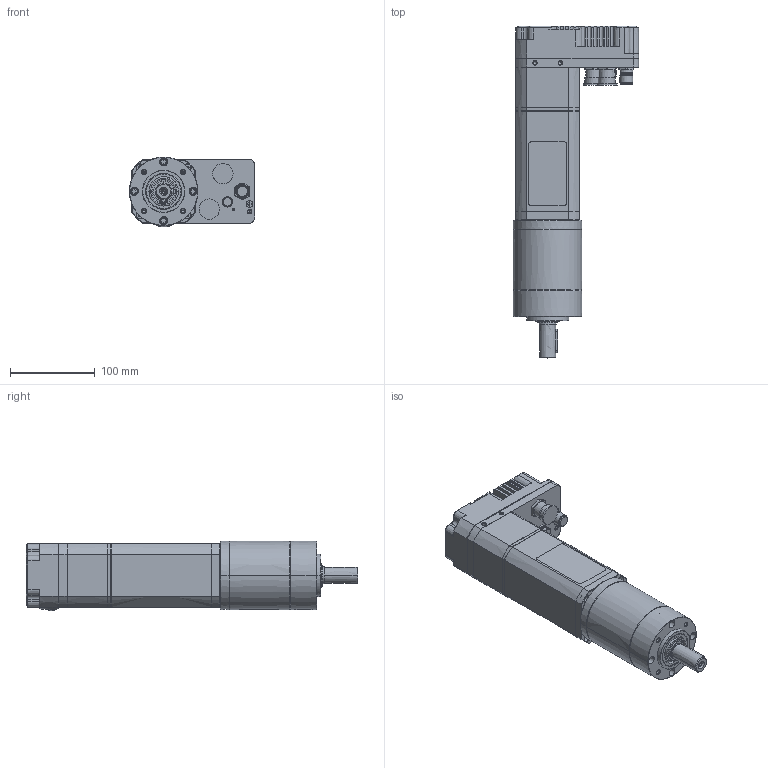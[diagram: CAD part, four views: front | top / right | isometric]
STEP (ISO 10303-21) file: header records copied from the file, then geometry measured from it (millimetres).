
FILE_DESCRIPTION((''),'2;1');
FILE_NAME('8037E1_3STAGES','2018-09-17T',('alecma1'),('CROUZET-AUTOMATISMES'),'CREO PARAMETRIC BY PTC INC, 2017170','CREO PARAMETRIC BY PTC INC, 2017170','');
FILE_SCHEMA(('AP203_CONFIGURATION_CONTROLLED_3D_DESIGN_OF_MECHANICAL_PARTS_AND_ASSEMBLIES_MIM_LF { 1 0 10303 403 2 1 2 }'));
Products named in the file (1): 8037E1_3STAGES
Bounding box: 148 x 392.45 x 82.5 mm (x, y, z)
Surface area: 177031.6 mm2 (no closed solid volume)
Topology: 0 solids, 0 shells, 748 faces, 3897 edges, 3836 vertices
Faces by surface type: bspline 702, torus 42, sphere 4
Entity records: 75732 total; most frequent: CARTESIAN_POINT 34521, DIRECTION 6090, TRIMMED_CURVE 5080, VECTOR 4187, LINE 4187, DEFINITIONAL_REPRESENTATION 3812, PCURVE 3812, COMPOSITE_CURVE_SEGMENT 3812
